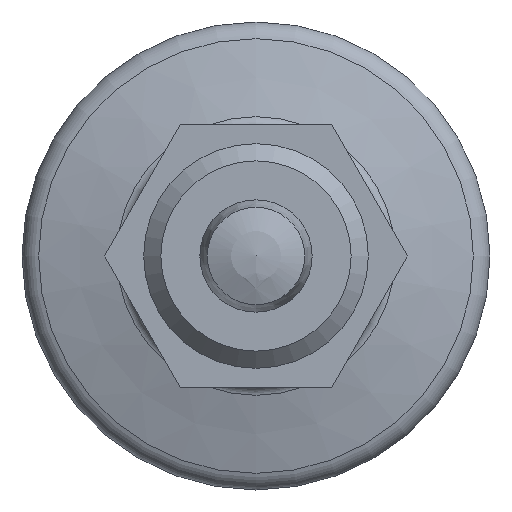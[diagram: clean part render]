
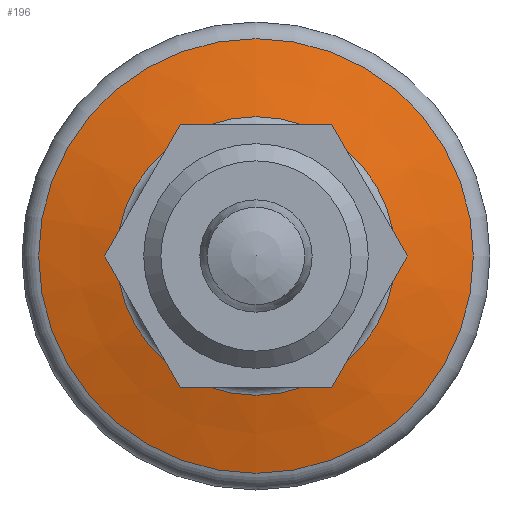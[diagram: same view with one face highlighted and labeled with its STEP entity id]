
A CAD part, front view. The second image highlights one B-rep face of the part: STEP entity #196.
In plain terms, the highlighted conical face has half-angle 75 degrees and reference radius 11.611 mm.
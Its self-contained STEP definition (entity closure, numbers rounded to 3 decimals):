
#196 = ADVANCED_FACE( '', ( #278, #279 ), #280, .T. );
#278 = FACE_BOUND( '', #415, .T. );
#279 = FACE_OUTER_BOUND( '', #416, .T. );
#280 = CONICAL_SURFACE( '', #417, 11.611, 1.309 );
#415 = EDGE_LOOP( '', ( #614 ) );
#416 = EDGE_LOOP( '', ( #615 ) );
#417 = AXIS2_PLACEMENT_3D( '', #616, #617, #618 );
#614 = ORIENTED_EDGE( '', *, *, #714, .F. );
#615 = ORIENTED_EDGE( '', *, *, #713, .T. );
#616 = CARTESIAN_POINT( '', ( 41.662, 0., 0. ) );
#617 = DIRECTION( '', ( 1., 0., 0. ) );
#618 = DIRECTION( '', ( 0., 1., 0. ) );
#713 = EDGE_CURVE( '', #799, #799, #800, .T. );
#714 = EDGE_CURVE( '', #801, #801, #802, .T. );
#799 = VERTEX_POINT( '', #975 );
#800 = CIRCLE( '', #976, 11.611 );
#801 = VERTEX_POINT( '', #977 );
#802 = CIRCLE( '', #978, 7.44 );
#975 = CARTESIAN_POINT( '', ( 41.662, -11.611, 0. ) );
#976 = AXIS2_PLACEMENT_3D( '', #1066, #1067, #1068 );
#977 = CARTESIAN_POINT( '', ( 40.544, -7.44, 0. ) );
#978 = AXIS2_PLACEMENT_3D( '', #1069, #1070, #1071 );
#1066 = CARTESIAN_POINT( '', ( 41.662, 0., 0. ) );
#1067 = DIRECTION( '', ( -1., 0., 0. ) );
#1068 = DIRECTION( '', ( 0., -1., 0. ) );
#1069 = CARTESIAN_POINT( '', ( 40.544, 0., 0. ) );
#1070 = DIRECTION( '', ( -1., 0., 0. ) );
#1071 = DIRECTION( '', ( 0., -1., 0. ) );
